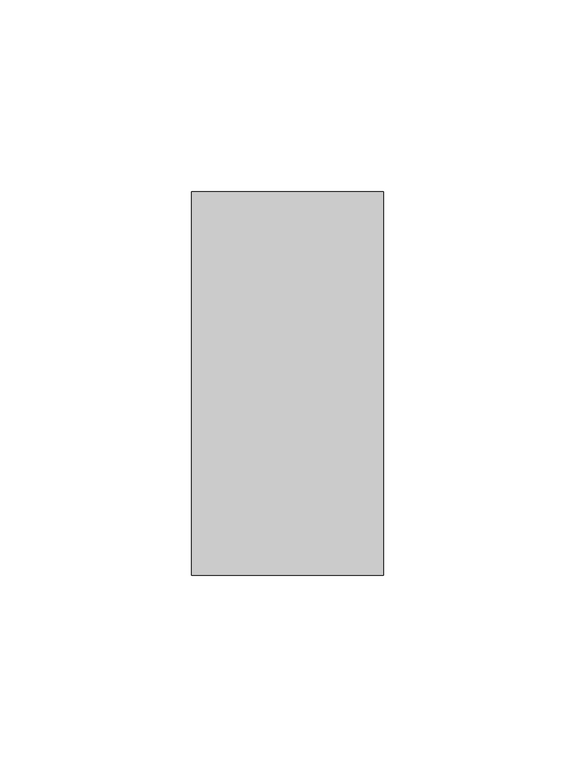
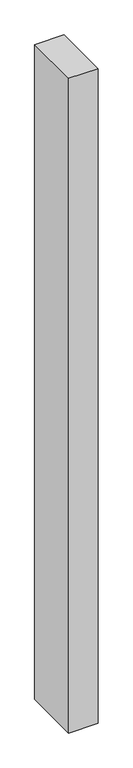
"""IFC4 building model written with IfcOpenShell, lengths in millimetres: member geometry, Meneaux de murs-rideaux - Meneau rectangulaire - 10 x 25mm (6)."""

from ifc_helpers import new_model, si_unit, frame, origin, place, context, project, spatial, polyline, outline, extrude, source, transform, mapped, element, save


def member_8ddccc91(model_context):
    return source(origin(), model_context, "Body", "SweptSolid", [
        extrude(outline(polyline([(-25.0, 50.0), (25.0, 50.0), (25.0, -50.0), (-25.0, -50.0), (-25.0, 50.0)])), frame((0.0, 0.0, -1175.0), z_axis=(0.0, 0.0, 1.0), x_axis=(1.0, 0.0, 0.0)), (0.0, 0.0, 1.0), 1175.0),
    ])


if __name__ == "__main__":
    model = new_model("IFC4")
    model_context = context("Model", 3, world=origin())
    ifc_project = project(units=[si_unit("LENGTHUNIT", "METRE", prefix="MILLI")], contexts=[model_context])
    site = spatial("IfcSite", under=ifc_project)
    building = spatial("IfcBuilding", under=site)
    placement = place(None, origin())
    member_shape = member_8ddccc91(model_context)
    element("IfcMember", 1, ObjectType="Meneaux de murs-rideaux - Meneau rectangulaire - 10 x 25mm (6)", at=placement, inside=building, context=model_context, shape_type="MappedRepresentation", body=[
        mapped(member_shape, transform((0.0, 0.0, 0.0), x_axis=(1.0, 0.0, 0.0), y_axis=(0.0, 1.0, 0.0), z_axis=(0.0, 0.0, 1.0))),
    ])
    save(model, "model.ifc")
